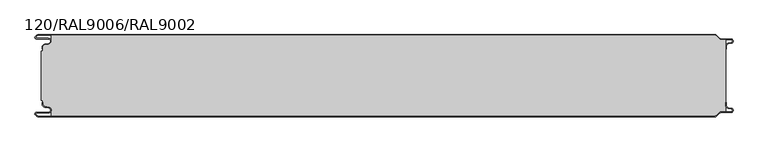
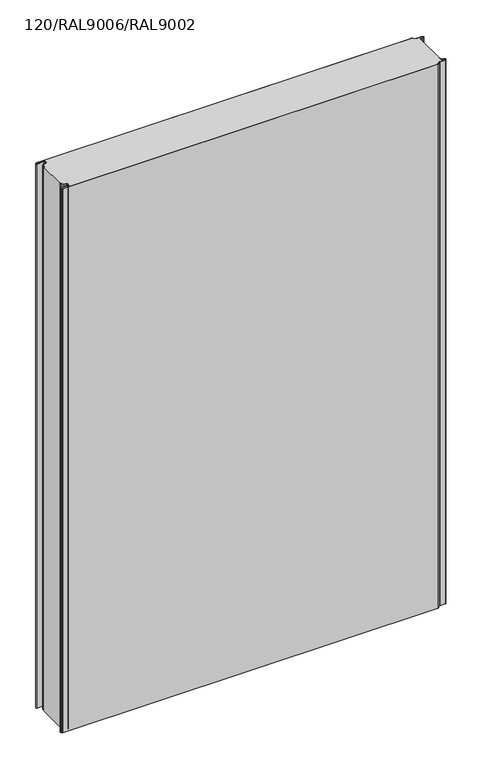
"""IFC4 building model written with IfcOpenShell, lengths in millimetres: plate geometry, TR_C_V_FTV_Panel : 120/RAL9006/RAL9002."""

from ifc_helpers import new_model, si_unit, point, frame, frame_2d, origin, place, context, project, spatial, polyline, circle_curve, trimmed, segment, composite_curve, outline, extrude, source, transform, mapped, element, save


def plate_120_ral9006_ral9002_0a070416(model_context):
    return source(origin(), model_context, "Body", "SweptSolid", [
        extrude(outline(composite_curve([segment(polyline([(499.8000012, -103.1130328), (499.8000012, -99.0), (500.6000012, -99.0), (500.6000012, -103.1130328)]), True, "CONTINUOUS"), segment(trimmed(circle_curve(frame_2d((504.3500012, -103.1130328)), 3.75), [point((500.6000012, -103.1130328))], [point((503.6988205, -106.8060618))], True, "CARTESIAN"), True, "CONTINUOUS"), segment(polyline([(503.6988205, -106.8060618), (507.9143577, -107.5493748)]), True, "CONTINUOUS"), segment(trimmed(circle_curve(frame_2d((507.3500012, -110.75)), 3.25), [point((507.9143577, -107.5493748))], [point((507.3500012, -114.0))], False, "CARTESIAN"), True, "CONTINUOUS"), segment(polyline([(507.3500012, -114.0), (492.6000012, -114.0)]), True, "CONTINUOUS"), segment(trimmed(circle_curve(frame_2d((492.6000012, -116.5)), 2.5), [point((492.6000012, -114.0))], [point((490.8322342, -114.732233))], True, "CARTESIAN"), True, "CONTINUOUS"), segment(polyline([(490.8322342, -114.732233), (486.4431469, -119.1213203)]), True, "CONTINUOUS"), segment(trimmed(circle_curve(frame_2d((484.3218266, -117.0)), 3.0), [point((486.4431469, -119.1213203))], [point((484.3218266, -120.0))], False, "CARTESIAN"), True, "CONTINUOUS"), segment(polyline([(484.3218266, -120.0), (-505.018628, -120.0)]), True, "CONTINUOUS"), segment(trimmed(circle_curve(frame_2d((-505.018628, -117.25)), 2.75), [point((-505.018628, -120.0))], [point((-506.9631716, -119.1945436))], False, "CARTESIAN"), True, "CONTINUOUS"), segment(polyline([(-506.9631716, -119.1945436), (-508.8288571, -117.3288582)]), True, "CONTINUOUS"), segment(trimmed(circle_curve(frame_2d((-507.4499988, -115.95)), 1.95), [point((-508.8288571, -117.3288582))], [point((-507.4499988, -114.0))], False, "CARTESIAN"), True, "CONTINUOUS"), segment(polyline([(-507.4499988, -114.0), (-489.8499988, -114.0)]), True, "CONTINUOUS"), segment(trimmed(circle_curve(frame_2d((-489.8499988, -110.55)), 3.45), [point((-489.8499988, -114.0))], [point((-489.2509126, -107.1524133))], True, "CARTESIAN"), True, "CONTINUOUS"), segment(polyline([(-489.2509126, -107.1524133), (-495.3011795, -106.085588)]), True, "CONTINUOUS"), segment(trimmed(circle_curve(frame_2d((-494.6499988, -102.3925589)), 3.75), [point((-495.3011795, -106.085588))], [point((-498.3999988, -102.3925589))], False, "CARTESIAN"), True, "CONTINUOUS"), segment(polyline([(-498.3999988, -102.3925589), (-498.3999988, -99.0), (-497.5999988, -99.0), (-497.5999988, -102.3925589)]), True, "CONTINUOUS"), segment(trimmed(circle_curve(frame_2d((-494.6499988, -102.3925589)), 2.95), [point((-497.5999988, -102.3925589))], [point((-495.162261, -105.2977418))], True, "CARTESIAN"), True, "CONTINUOUS"), segment(polyline([(-495.162261, -105.2977418), (-489.1119941, -106.364567)]), True, "CONTINUOUS"), segment(trimmed(circle_curve(frame_2d((-489.8499988, -110.55)), 4.25), [point((-489.1119941, -106.364567))], [point((-489.8499988, -114.8))], False, "CARTESIAN"), True, "CONTINUOUS"), segment(polyline([(-489.8499988, -114.8), (-507.4499988, -114.8)]), True, "CONTINUOUS"), segment(trimmed(circle_curve(frame_2d((-507.4499988, -115.95)), 1.15), [point((-507.4499988, -114.8))], [point((-508.2631716, -116.7631728))], True, "CARTESIAN"), True, "CONTINUOUS"), segment(polyline([(-508.2631716, -116.7631728), (-506.3974862, -118.6288582)]), True, "CONTINUOUS"), segment(trimmed(circle_curve(frame_2d((-505.018628, -117.25)), 1.95), [point((-506.3974862, -118.6288582))], [point((-505.018628, -119.2))], True, "CARTESIAN"), True, "CONTINUOUS"), segment(polyline([(-505.018628, -119.2), (484.3218266, -119.2)]), True, "CONTINUOUS"), segment(trimmed(circle_curve(frame_2d((484.3218266, -117.0)), 2.2), [point((484.3218266, -119.2))], [point((485.8774615, -118.5556349))], True, "CARTESIAN"), True, "CONTINUOUS"), segment(polyline([(485.8774615, -118.5556349), (490.2665488, -114.1665476)]), True, "CONTINUOUS"), segment(trimmed(circle_curve(frame_2d((492.6000012, -116.5)), 3.3), [point((490.2665488, -114.1665476))], [point((492.6000012, -113.2))], False, "CARTESIAN"), True, "CONTINUOUS"), segment(polyline([(492.6000012, -113.2), (507.3500012, -113.2)]), True, "CONTINUOUS"), segment(trimmed(circle_curve(frame_2d((507.3500012, -110.75)), 2.45), [point((507.3500012, -113.2))], [point((507.7754392, -108.337221))], True, "CARTESIAN"), True, "CONTINUOUS"), segment(polyline([(507.7754392, -108.337221), (503.559902, -107.5939081)]), True, "CONTINUOUS"), segment(trimmed(circle_curve(frame_2d((504.3500012, -103.1130328)), 4.55), [point((503.559902, -107.5939081))], [point((499.8000012, -103.1130328))], False, "CARTESIAN"), True, "CONTINUOUS")], self_intersect=False)), frame((0.0, 0.0, -15.0), z_axis=(0.0, 0.0, 1.0), x_axis=(1.0, 0.0, 0.0)), (0.0, 0.0, 1.0), 1515.0),
        extrude(outline(composite_curve([segment(polyline([(-499.9999988, -23.7), (-497.5999988, -23.7), (-497.5999988, -17.6074411)]), True, "CONTINUOUS"), segment(trimmed(circle_curve(frame_2d((-494.6499988, -17.6074411)), 2.95), [point((-497.5999988, -17.6074411))], [point((-495.162261, -14.7022582))], False, "CARTESIAN"), True, "CONTINUOUS"), segment(polyline([(-495.162261, -14.7022582), (-489.1119941, -13.635433)]), True, "CONTINUOUS"), segment(trimmed(circle_curve(frame_2d((-489.8499988, -9.45)), 4.25), [point((-489.1119941, -13.635433))], [point((-485.5999988, -9.45))], True, "CARTESIAN"), True, "CONTINUOUS"), segment(polyline([(-485.5999988, -9.45), (-485.5999988, -0.8), (484.3218266, -0.8)]), True, "CONTINUOUS"), segment(trimmed(circle_curve(frame_2d((484.3218266, -3.0)), 2.2), [point((484.3218266, -0.8))], [point((485.8774615, -1.4443651))], False, "CARTESIAN"), True, "CONTINUOUS"), segment(polyline([(485.8774615, -1.4443651), (490.2665488, -5.8334524)]), True, "CONTINUOUS"), segment(trimmed(circle_curve(frame_2d((492.6000012, -3.5)), 3.3), [point((490.2665488, -5.8334524))], [point((492.6000012, -6.8))], True, "CARTESIAN"), True, "CONTINUOUS"), segment(polyline([(492.6000012, -6.8), (500.0, -6.8), (500.0, -113.2), (492.6000012, -113.2)]), True, "CONTINUOUS"), segment(trimmed(circle_curve(frame_2d((492.6000012, -116.5)), 3.3), [point((492.6000012, -113.2))], [point((490.2665488, -114.1665476))], True, "CARTESIAN"), True, "CONTINUOUS"), segment(polyline([(490.2665488, -114.1665476), (485.8774615, -118.5556349)]), True, "CONTINUOUS"), segment(trimmed(circle_curve(frame_2d((484.3218266, -117.0)), 2.2), [point((485.8774615, -118.5556349))], [point((484.3218266, -119.2))], False, "CARTESIAN"), True, "CONTINUOUS"), segment(polyline([(484.3218266, -119.2), (-485.5999988, -119.2), (-485.5999988, -110.55)]), True, "CONTINUOUS"), segment(trimmed(circle_curve(frame_2d((-489.8499988, -110.55)), 4.25), [point((-485.5999988, -110.55))], [point((-489.1119941, -106.364567))], True, "CARTESIAN"), True, "CONTINUOUS"), segment(polyline([(-489.1119941, -106.364567), (-495.162261, -105.2977418)]), True, "CONTINUOUS"), segment(trimmed(circle_curve(frame_2d((-494.6499988, -102.3925589)), 2.95), [point((-495.162261, -105.2977418))], [point((-497.5999988, -102.3925589))], False, "CARTESIAN"), True, "CONTINUOUS"), segment(polyline([(-497.5999988, -102.3925589), (-497.5999988, -96.3), (-499.9999988, -96.3), (-499.9999988, -23.7)]), True, "CONTINUOUS")], self_intersect=False)), frame((0.0, 0.0, -15.0), z_axis=(0.0, 0.0, 1.0), x_axis=(1.0, 0.0, 0.0)), (0.0, 0.0, 1.0), 1515.0),
        extrude(outline(composite_curve([segment(trimmed(circle_curve(frame_2d((504.3500012, -16.8869672)), 4.55), [point((499.8000012, -16.8869672))], [point((503.559902, -12.4060919))], False, "CARTESIAN"), True, "CONTINUOUS"), segment(polyline([(503.559902, -12.4060919), (507.7754392, -11.662779)]), True, "CONTINUOUS"), segment(trimmed(circle_curve(frame_2d((507.3500012, -9.25)), 2.45), [point((507.7754392, -11.662779))], [point((507.3500012, -6.8))], True, "CARTESIAN"), True, "CONTINUOUS"), segment(polyline([(507.3500012, -6.8), (492.6000012, -6.8)]), True, "CONTINUOUS"), segment(trimmed(circle_curve(frame_2d((492.6000012, -3.5)), 3.3), [point((492.6000012, -6.8))], [point((490.2665488, -5.8334524))], False, "CARTESIAN"), True, "CONTINUOUS"), segment(polyline([(490.2665488, -5.8334524), (485.8774615, -1.4443651)]), True, "CONTINUOUS"), segment(trimmed(circle_curve(frame_2d((484.3218266, -3.0)), 2.2), [point((485.8774615, -1.4443651))], [point((484.3218266, -0.8))], True, "CARTESIAN"), True, "CONTINUOUS"), segment(polyline([(484.3218266, -0.8), (-505.018628, -0.8)]), True, "CONTINUOUS"), segment(trimmed(circle_curve(frame_2d((-505.018628, -2.75)), 1.95), [point((-505.018628, -0.8))], [point((-506.3974862, -1.3711418))], True, "CARTESIAN"), True, "CONTINUOUS"), segment(polyline([(-506.3974862, -1.3711418), (-508.2631716, -3.2368272)]), True, "CONTINUOUS"), segment(trimmed(circle_curve(frame_2d((-507.4499988, -4.05)), 1.15), [point((-508.2631716, -3.2368272))], [point((-507.4499988, -5.2))], True, "CARTESIAN"), True, "CONTINUOUS"), segment(polyline([(-507.4499988, -5.2), (-489.8499988, -5.2)]), True, "CONTINUOUS"), segment(trimmed(circle_curve(frame_2d((-489.8499988, -9.45)), 4.25), [point((-489.8499988, -5.2))], [point((-489.1119941, -13.635433))], False, "CARTESIAN"), True, "CONTINUOUS"), segment(polyline([(-489.1119941, -13.635433), (-495.162261, -14.7022582)]), True, "CONTINUOUS"), segment(trimmed(circle_curve(frame_2d((-494.6499988, -17.6074411)), 2.95), [point((-495.162261, -14.7022582))], [point((-497.5999988, -17.6074411))], True, "CARTESIAN"), True, "CONTINUOUS"), segment(polyline([(-497.5999988, -17.6074411), (-497.5999988, -21.0), (-498.3999988, -21.0), (-498.3999988, -17.6074411)]), True, "CONTINUOUS"), segment(trimmed(circle_curve(frame_2d((-494.6499988, -17.6074411)), 3.75), [point((-498.3999988, -17.6074411))], [point((-495.3011795, -13.914412))], False, "CARTESIAN"), True, "CONTINUOUS"), segment(polyline([(-495.3011795, -13.914412), (-489.2509126, -12.8475867)]), True, "CONTINUOUS"), segment(trimmed(circle_curve(frame_2d((-489.8499988, -9.45)), 3.45), [point((-489.2509126, -12.8475867))], [point((-489.8499988, -6.0))], True, "CARTESIAN"), True, "CONTINUOUS"), segment(polyline([(-489.8499988, -6.0), (-507.4499988, -6.0)]), True, "CONTINUOUS"), segment(trimmed(circle_curve(frame_2d((-507.4499988, -4.05)), 1.95), [point((-507.4499988, -6.0))], [point((-508.8288571, -2.6711418))], False, "CARTESIAN"), True, "CONTINUOUS"), segment(polyline([(-508.8288571, -2.6711418), (-506.9631716, -0.8054564)]), True, "CONTINUOUS"), segment(trimmed(circle_curve(frame_2d((-505.018628, -2.75)), 2.75), [point((-506.9631716, -0.8054564))], [point((-505.018628, 0.0))], False, "CARTESIAN"), True, "CONTINUOUS"), segment(polyline([(-505.018628, 0.0), (484.3218266, 0.0)]), True, "CONTINUOUS"), segment(trimmed(circle_curve(frame_2d((484.3218266, -3.0)), 3.0), [point((484.3218266, 0.0))], [point((486.4431469, -0.8786797))], False, "CARTESIAN"), True, "CONTINUOUS"), segment(polyline([(486.4431469, -0.8786797), (490.8322342, -5.267767)]), True, "CONTINUOUS"), segment(trimmed(circle_curve(frame_2d((492.6000012, -3.5)), 2.5), [point((490.8322342, -5.267767))], [point((492.6000012, -6.0))], True, "CARTESIAN"), True, "CONTINUOUS"), segment(polyline([(492.6000012, -6.0), (507.3500012, -6.0)]), True, "CONTINUOUS"), segment(trimmed(circle_curve(frame_2d((507.3500012, -9.25)), 3.25), [point((507.3500012, -6.0))], [point((507.9143577, -12.4506252))], False, "CARTESIAN"), True, "CONTINUOUS"), segment(polyline([(507.9143577, -12.4506252), (503.6988205, -13.1939382)]), True, "CONTINUOUS"), segment(trimmed(circle_curve(frame_2d((504.3500012, -16.8869672)), 3.75), [point((503.6988205, -13.1939382))], [point((500.6000012, -16.8869672))], True, "CARTESIAN"), True, "CONTINUOUS"), segment(polyline([(500.6000012, -16.8869672), (500.6000012, -21.0), (499.8000012, -21.0), (499.8000012, -16.8869672)]), True, "CONTINUOUS")], self_intersect=False)), frame((0.0, 0.0, -15.0), z_axis=(0.0, 0.0, 1.0), x_axis=(1.0, 0.0, 0.0)), (0.0, 0.0, 1.0), 1515.0),
    ])


if __name__ == "__main__":
    model = new_model("IFC4")
    model_context = context("Model", 3, world=origin())
    ifc_project = project(units=[si_unit("LENGTHUNIT", "METRE", prefix="MILLI")], contexts=[model_context])
    site = spatial("IfcSite", under=ifc_project)
    building = spatial("IfcBuilding", under=site)
    placement = place(None, origin())
    plate_120_ral9006_ral9002_shape = plate_120_ral9006_ral9002_0a070416(model_context)
    element("IfcPlate", 1, ObjectType="TR_C_V_FTV_Panel : 120/RAL9006/RAL9002", at=placement, inside=building, context=model_context, shape_type="MappedRepresentation", body=[
        mapped(plate_120_ral9006_ral9002_shape, transform((0.0, 0.0, 0.0), x_axis=(1.0, 0.0, 0.0), y_axis=(0.0, 1.0, 0.0), z_axis=(0.0, 0.0, 1.0))),
    ])
    save(model, "model.ifc")
